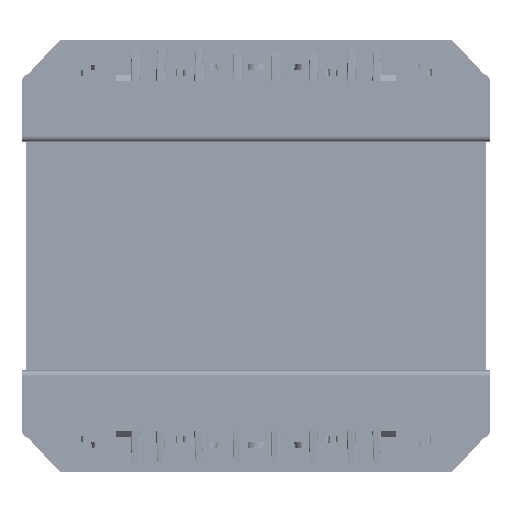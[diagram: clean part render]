
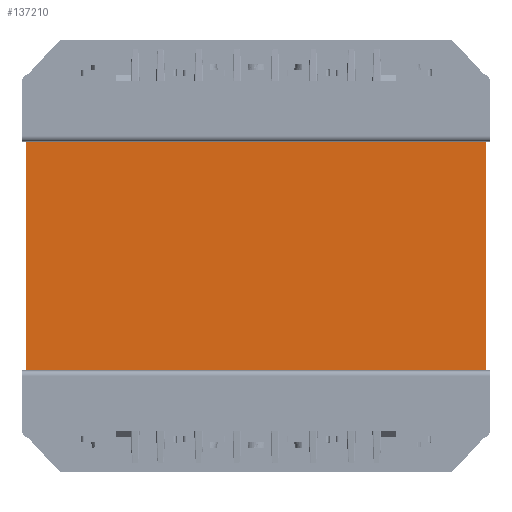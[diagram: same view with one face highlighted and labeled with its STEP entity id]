
A CAD part, front view. The second image highlights one B-rep face of the part: STEP entity #137210.
In plain terms, the highlighted planar face has unit normal (0, -1, 0).
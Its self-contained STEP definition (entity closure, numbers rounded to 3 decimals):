
#402 = CARTESIAN_POINT ( 'NONE',  ( -90.6, -75.5, -45. ) ) ;
#534 = EDGE_LOOP ( 'NONE', ( #59528, #118020, #92042, #32414 ) ) ;
#1834 = DIRECTION ( 'NONE',  ( 1., 0., 0. ) ) ;
#18997 = LINE ( 'NONE', #58507, #49322 ) ;
#20075 = AXIS2_PLACEMENT_3D ( 'NONE', #74802, #164615, #87733 ) ;
#24559 = CARTESIAN_POINT ( 'NONE',  ( -90.6, -75.5, 45. ) ) ;
#27831 = LINE ( 'NONE', #30635, #160627 ) ;
#28632 = VECTOR ( 'NONE', #1834, 1000. ) ;
#30635 = CARTESIAN_POINT ( 'NONE',  ( -90.6, -75.5, -45. ) ) ;
#32414 = ORIENTED_EDGE ( 'NONE', *, *, #51842, .T. ) ;
#49322 = VECTOR ( 'NONE', #71422, 1000. ) ;
#51842 = EDGE_CURVE ( 'NONE', #85105, #54364, #18997, .T. ) ;
#54364 = VERTEX_POINT ( 'NONE', #402 ) ;
#54953 = CARTESIAN_POINT ( 'NONE',  ( 90.6, -75.5, -45. ) ) ;
#58117 = CARTESIAN_POINT ( 'NONE',  ( 90.6, -75.5, 45. ) ) ;
#58507 = CARTESIAN_POINT ( 'NONE',  ( -90.6, -75.5, 45. ) ) ;
#59528 = ORIENTED_EDGE ( 'NONE', *, *, #146695, .T. ) ;
#66926 = LINE ( 'NONE', #58117, #97104 ) ;
#71422 = DIRECTION ( 'NONE',  ( 0., 0., -1. ) ) ;
#74330 = EDGE_CURVE ( 'NONE', #85105, #101980, #157433, .T. ) ;
#74802 = CARTESIAN_POINT ( 'NONE',  ( -90.6, -75.5, 45. ) ) ;
#85105 = VERTEX_POINT ( 'NONE', #24559 ) ;
#87180 = PLANE ( 'NONE',  #20075 ) ;
#87587 = EDGE_CURVE ( 'NONE', #101980, #135320, #66926, .T. ) ;
#87733 = DIRECTION ( 'NONE',  ( 0., 0., 1. ) ) ;
#88254 = CARTESIAN_POINT ( 'NONE',  ( 90.6, -75.5, 45. ) ) ;
#92042 = ORIENTED_EDGE ( 'NONE', *, *, #74330, .F. ) ;
#97104 = VECTOR ( 'NONE', #135125, 1000. ) ;
#101980 = VERTEX_POINT ( 'NONE', #88254 ) ;
#118020 = ORIENTED_EDGE ( 'NONE', *, *, #87587, .F. ) ;
#135125 = DIRECTION ( 'NONE',  ( 0., 0., -1. ) ) ;
#135320 = VERTEX_POINT ( 'NONE', #54953 ) ;
#137210 = ADVANCED_FACE ( 'NONE', ( #163735 ), #87180, .F. ) ;
#146562 = DIRECTION ( 'NONE',  ( 1., 0., 0. ) ) ;
#146695 = EDGE_CURVE ( 'NONE', #54364, #135320, #27831, .T. ) ;
#155951 = CARTESIAN_POINT ( 'NONE',  ( -90.6, -75.5, 45. ) ) ;
#157433 = LINE ( 'NONE', #155951, #28632 ) ;
#160627 = VECTOR ( 'NONE', #146562, 1000. ) ;
#163735 = FACE_OUTER_BOUND ( 'NONE', #534, .T. ) ;
#164615 = DIRECTION ( 'NONE',  ( 0., 1., 0. ) ) ;
